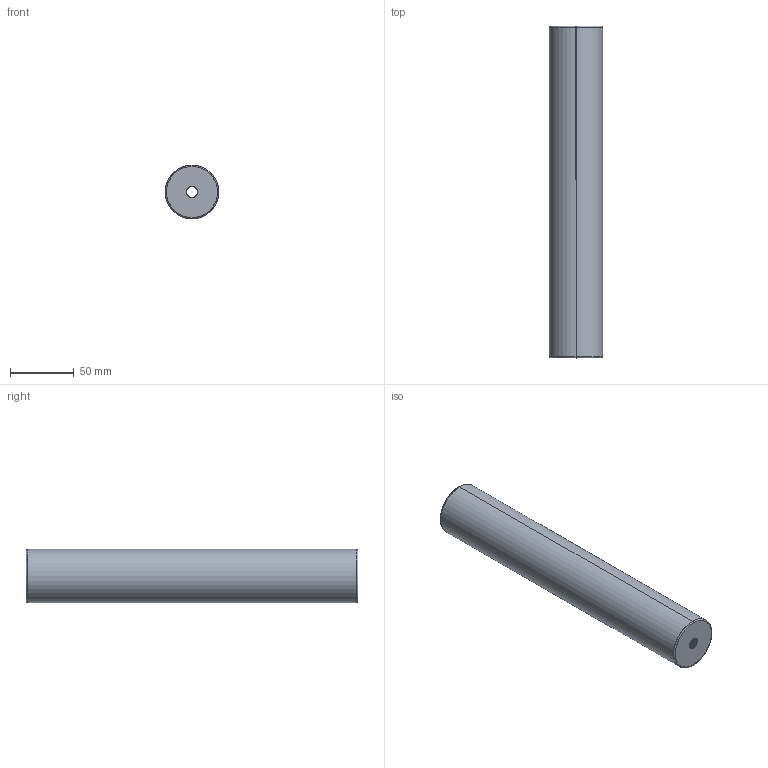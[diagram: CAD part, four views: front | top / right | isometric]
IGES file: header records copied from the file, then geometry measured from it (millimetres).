
Start section: SolidWorks IGES file using analytic representation for surfaces
Global section: file name: D:\Belgelerim\solid çalýþmalarým\D40 VÝDA KANALI AÇILACAK\ÝGS\D40_42X260.IGS; native system: SolidWorks 2008; preprocessor: SolidWorks 2008; author: kalite-mail; date: 080708.170820; units: millimetre
Bounding box: 42 x 260 x 42 mm (x, y, z)
Surface area: 62710.3 mm2 (no closed solid volume)
Topology: 0 solids, 0 shells, 59 faces, 1598 edges, 1598 vertices
Faces by surface type: revolution 44, bspline 15
